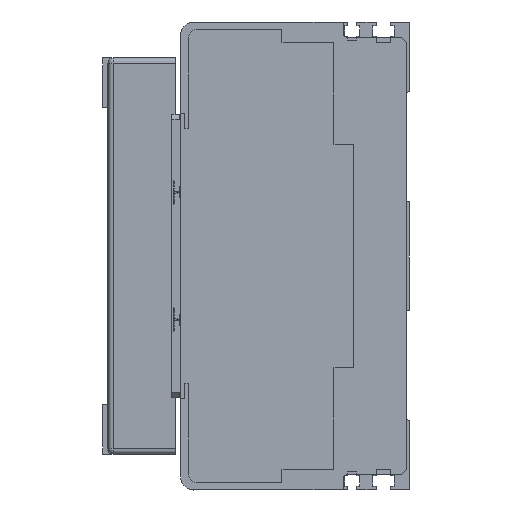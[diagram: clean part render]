
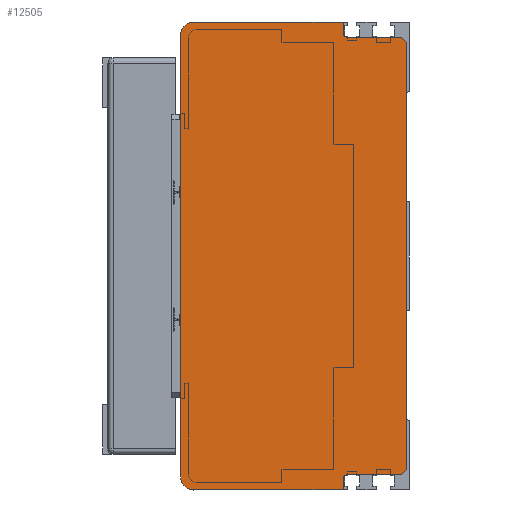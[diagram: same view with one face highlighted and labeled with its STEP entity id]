
A CAD part, left-side view. The second image highlights one B-rep face of the part: STEP entity #12505.
In plain terms, the highlighted planar face has unit normal (-1, 0, 0) as drawn and (0, 0, -1) by its records, which use the part's own axes.
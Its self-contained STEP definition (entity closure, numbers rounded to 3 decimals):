
#957=CIRCLE('',#13364,2.);
#958=CIRCLE('',#13365,5.);
#959=CIRCLE('',#13366,5.);
#960=CIRCLE('',#13367,2.);
#1268=FACE_OUTER_BOUND('',#2036,.T.);
#2036=EDGE_LOOP('',(#8500,#8501,#8502,#8503,#8504,#8505,#8506,#8507,#8508,
#8509,#8510,#8511,#8512,#8513));
#2925=LINE('',#17596,#4102);
#2926=LINE('',#17598,#4103);
#2927=LINE('',#17602,#4104);
#2928=LINE('',#17604,#4105);
#2929=LINE('',#17608,#4106);
#2930=LINE('',#17612,#4107);
#2931=LINE('',#17614,#4108);
#2932=LINE('',#17618,#4109);
#2933=LINE('',#17620,#4110);
#2934=LINE('',#17621,#4111);
#4102=VECTOR('',#14493,2.828);
#4103=VECTOR('',#14494,20.5);
#4104=VECTOR('',#14497,4.);
#4105=VECTOR('',#14498,57.5);
#4106=VECTOR('',#14501,170.);
#4107=VECTOR('',#14504,57.5);
#4108=VECTOR('',#14505,4.);
#4109=VECTOR('',#14508,20.5);
#4110=VECTOR('',#14509,2.828);
#4111=VECTOR('',#14510,164.);
#5315=VERTEX_POINT('',#17594);
#5316=VERTEX_POINT('',#17595);
#5317=VERTEX_POINT('',#17597);
#5318=VERTEX_POINT('',#17599);
#5319=VERTEX_POINT('',#17601);
#5320=VERTEX_POINT('',#17603);
#5321=VERTEX_POINT('',#17605);
#5322=VERTEX_POINT('',#17607);
#5323=VERTEX_POINT('',#17609);
#5324=VERTEX_POINT('',#17611);
#5325=VERTEX_POINT('',#17613);
#5326=VERTEX_POINT('',#17615);
#5327=VERTEX_POINT('',#17617);
#5328=VERTEX_POINT('',#17619);
#6593=EDGE_CURVE('',#5315,#5316,#2925,.T.);
#6594=EDGE_CURVE('',#5315,#5317,#2926,.T.);
#6595=EDGE_CURVE('',#5318,#5317,#957,.T.);
#6596=EDGE_CURVE('',#5318,#5319,#2927,.T.);
#6597=EDGE_CURVE('',#5319,#5320,#2928,.T.);
#6598=EDGE_CURVE('',#5320,#5321,#958,.T.);
#6599=EDGE_CURVE('',#5321,#5322,#2929,.T.);
#6600=EDGE_CURVE('',#5322,#5323,#959,.T.);
#6601=EDGE_CURVE('',#5323,#5324,#2930,.T.);
#6602=EDGE_CURVE('',#5324,#5325,#2931,.T.);
#6603=EDGE_CURVE('',#5326,#5325,#960,.T.);
#6604=EDGE_CURVE('',#5326,#5327,#2932,.T.);
#6605=EDGE_CURVE('',#5328,#5327,#2933,.T.);
#6606=EDGE_CURVE('',#5328,#5316,#2934,.T.);
#8500=ORIENTED_EDGE('',*,*,#6593,.F.);
#8501=ORIENTED_EDGE('',*,*,#6594,.T.);
#8502=ORIENTED_EDGE('',*,*,#6595,.F.);
#8503=ORIENTED_EDGE('',*,*,#6596,.T.);
#8504=ORIENTED_EDGE('',*,*,#6597,.T.);
#8505=ORIENTED_EDGE('',*,*,#6598,.T.);
#8506=ORIENTED_EDGE('',*,*,#6599,.T.);
#8507=ORIENTED_EDGE('',*,*,#6600,.T.);
#8508=ORIENTED_EDGE('',*,*,#6601,.T.);
#8509=ORIENTED_EDGE('',*,*,#6602,.T.);
#8510=ORIENTED_EDGE('',*,*,#6603,.F.);
#8511=ORIENTED_EDGE('',*,*,#6604,.T.);
#8512=ORIENTED_EDGE('',*,*,#6605,.F.);
#8513=ORIENTED_EDGE('',*,*,#6606,.T.);
#12056=PLANE('',#13363);
#12505=ADVANCED_FACE('',(#1268),#12056,.T.);
#13363=AXIS2_PLACEMENT_3D('',#17593,#14491,#14492);
#13364=AXIS2_PLACEMENT_3D('',#17600,#14495,#14496);
#13365=AXIS2_PLACEMENT_3D('',#17606,#14499,#14500);
#13366=AXIS2_PLACEMENT_3D('',#17610,#14502,#14503);
#13367=AXIS2_PLACEMENT_3D('',#17616,#14506,#14507);
#14491=DIRECTION('center_axis',(0.,0.,
-1.));
#14492=DIRECTION('ref_axis',(0.,-1.,0.));
#14493=DIRECTION('',(0.707,-0.707,0.));
#14494=DIRECTION('',(0.,1.,0.));
#14495=DIRECTION('center_axis',(0.,0.,
-1.));
#14496=DIRECTION('ref_axis',(0.707,0.707,0.));
#14497=DIRECTION('',(-1.,0.,0.));
#14498=DIRECTION('',(0.,1.,0.));
#14499=DIRECTION('center_axis',(0.,0.,
-1.));
#14500=DIRECTION('ref_axis',(-1.,0.,0.));
#14501=DIRECTION('',(1.,0.,0.));
#14502=DIRECTION('center_axis',(0.,0.,
-1.));
#14503=DIRECTION('ref_axis',(0.,1.,0.));
#14504=DIRECTION('',(0.,-1.,0.));
#14505=DIRECTION('',(-1.,0.,0.));
#14506=DIRECTION('center_axis',(0.,0.,
-1.));
#14507=DIRECTION('ref_axis',(-0.707,0.707,0.));
#14508=DIRECTION('',(0.,-1.,0.));
#14509=DIRECTION('',(0.707,0.707,0.));
#14510=DIRECTION('',(-1.,0.,0.));
#17593=CARTESIAN_POINT('Origin',(317.669,46.746,-1206.483));
#17594=CARTESIAN_POINT('',(-91.,-80.,-1206.483));
#17595=CARTESIAN_POINT('',(-89.,-82.,-1206.483));
#17596=CARTESIAN_POINT('',(-20.019,-150.981,-1206.483));
#17597=CARTESIAN_POINT('',(-91.,-59.5,-1206.483));
#17598=CARTESIAN_POINT('',(-91.,-17.627,-1206.483));
#17599=CARTESIAN_POINT('',(-93.,-57.5,-1206.483));
#17600=CARTESIAN_POINT('Origin',(-93.,-59.5,-1206.483));
#17601=CARTESIAN_POINT('',(-97.,-57.5,-1206.483));
#17602=CARTESIAN_POINT('',(-91.,-57.5,-1206.483));
#17603=CARTESIAN_POINT('',(-97.,0.,-1206.483));
#17604=CARTESIAN_POINT('',(-97.,-57.5,-1206.483));
#17605=CARTESIAN_POINT('',(-92.,5.,-1206.483));
#17606=CARTESIAN_POINT('Origin',(-92.,0.,
-1206.483));
#17607=CARTESIAN_POINT('',(78.,5.,-1206.483));
#17608=CARTESIAN_POINT('',(-92.,5.,-1206.483));
#17609=CARTESIAN_POINT('',(83.,0.,-1206.483));
#17610=CARTESIAN_POINT('Origin',(78.,0.,
-1206.483));
#17611=CARTESIAN_POINT('',(83.,-57.5,-1206.483));
#17612=CARTESIAN_POINT('',(83.,0.,-1206.483));
#17613=CARTESIAN_POINT('',(79.,-57.5,-1206.483));
#17614=CARTESIAN_POINT('',(83.,-57.5,-1206.483));
#17615=CARTESIAN_POINT('',(77.,-59.5,-1206.483));
#17616=CARTESIAN_POINT('Origin',(79.,-59.5,-1206.483));
#17617=CARTESIAN_POINT('',(77.,-80.,-1206.483));
#17618=CARTESIAN_POINT('',(77.,-57.5,-1206.483));
#17619=CARTESIAN_POINT('',(75.,-82.,-1206.483));
#17620=CARTESIAN_POINT('',(168.354,11.354,-1206.483));
#17621=CARTESIAN_POINT('',(81.,-82.,-1206.483));
